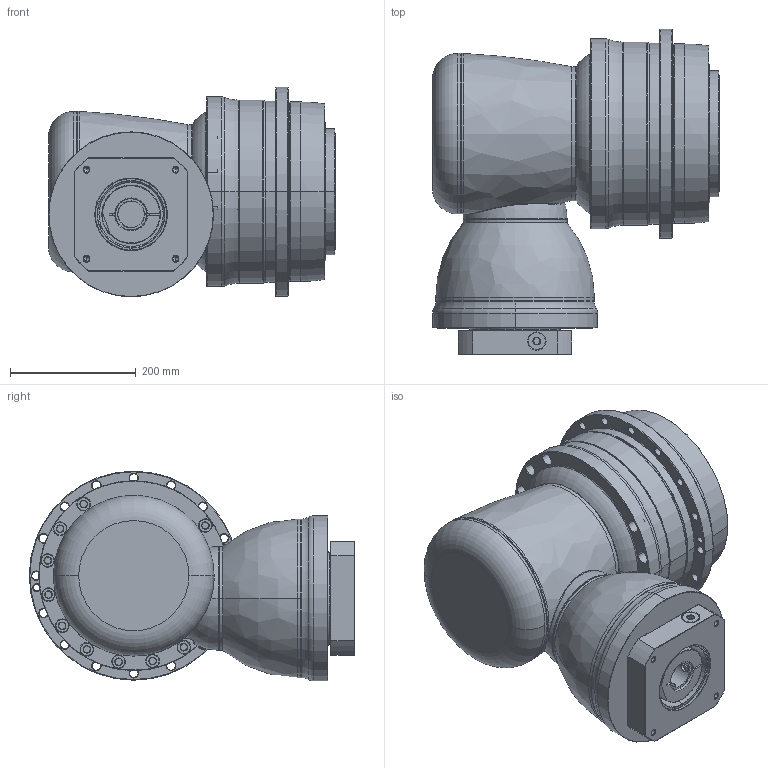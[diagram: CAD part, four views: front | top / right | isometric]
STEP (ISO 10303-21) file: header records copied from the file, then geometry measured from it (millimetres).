
FILE_DESCRIPTION((''),'2;1');
FILE_NAME('AHK285_2ST_42-P0409A00101_ASM','2016-10-17T',('d01943'),(''),'PRO/ENGINEER BY PARAMETRIC TECHNOLOGY CORPORATION, 2008410','PRO/ENGINEER BY PARAMETRIC TECHNOLOGY CORPORATION, 2008410','');
FILE_SCHEMA(('CONFIG_CONTROL_DESIGN'));
Length unit declared in the file: millimetre
Products named in the file (12): P1008700002; P1802800001; P0278800003; P0359800003; P1315700001; P1007700001; P1318700201; P0503A00012; P0912702201; P0409A00101; 21711422019; AHK285_2ST_42-P0409A00101_ASM
Assembly tree (11 placements, depth 2):
  AHK285_2ST_42-P0409A00101_ASM
    P1008700002
    P1802800001
    P0278800003
    P0359800003
    P1315700001
    P1007700001
    P1318700201
    P0503A00012
    P0912702201
    P0409A00101
    21711422019
Bounding box: 455.5 x 517 x 333 mm (x, y, z)
Volume: 25731202.3 mm3; surface area: 1776070.9 mm2
Topology: 12 solids, 12 shells, 973 faces, 2202 edges, 1277 vertices
Faces by surface type: cylinder 345, cone 336, plane 136, torus 124, bspline 30, sphere 2
Entity records: 34572 total; most frequent: CARTESIAN_POINT 12134, DIRECTION 5164, ORIENTED_EDGE 4280, AXIS2_PLACEMENT_3D 2197, EDGE_CURVE 2140, VERTEX_POINT 1277, CIRCLE 1231, EDGE_LOOP 1155
